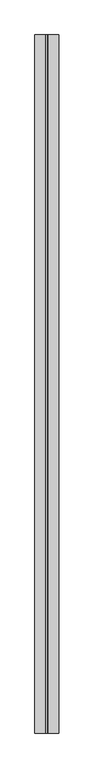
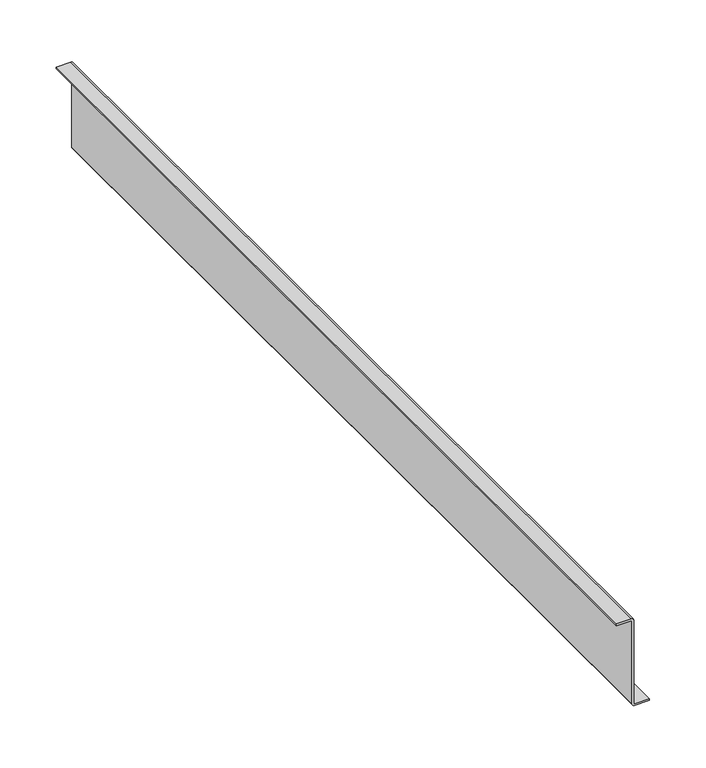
"""IFC4 building model written with IfcOpenShell, lengths in millimetres: proxy geometry, Cable_Tray_Divider_Profile_PSWT_Basorcanal : Basorcanal PSWT 100."""

import ifcopenshell
import ifcopenshell.guid

model = None  # the IFC model being written
_history = None  # IfcOwnerHistory: only IFC2X3 demands one
_inside = {}  # id of a spatial element -> (the spatial element, [elements in it])
_under = {}  # id of a project, library or spatial element -> (it, [spatial elements below it])
_declared = {}  # id of a project -> (the project, [libraries it declares])
_typed = {}  # id of a type object -> (the type object, [elements of that type])
_made_of = {}  # id of a material, layer set ... -> (it, [elements and type objects made of it])


def new_model(schema):
    """Start an empty IFC model of exactly this schema.

    Asked for "IFC4X3", IfcOpenShell would pick the latest addendum, in which some entities
    have other attributes; the version numbers below select the first issue.
    IFC2X3 requires an IfcOwnerHistory on every rooted entity: one is made here for all.
    """
    global model, _history
    if schema == "IFC4X3":
        model = ifcopenshell.file(schema_version=(4, 3, 0, 0))
    else:
        model = ifcopenshell.file(schema=schema)
    _inside.clear()
    _under.clear()
    _declared.clear()
    _typed.clear()
    _made_of.clear()
    _history = None
    if model.schema == "IFC2X3":
        org = make("IfcOrganization", Name="unknown")
        user = make(
            "IfcPersonAndOrganization",
            ThePerson=make("IfcPerson", FamilyName="unknown"),
            TheOrganization=org,
        )
        app = make(
            "IfcApplication",
            ApplicationDeveloper=org,
            Version="unknown",
            ApplicationFullName="unknown",
            ApplicationIdentifier="unknown",
        )
        _history = make(
            "IfcOwnerHistory",
            OwningUser=user,
            OwningApplication=app,
            ChangeAction="ADDED",
            CreationDate=0,
        )
    return model


def make(cls, **values):
    """One entity of the class cls with the attributes given. An attribute that is None is left unset."""
    return model.create_entity(
        cls, **{name: value for name, value in values.items() if value is not None}
    )


def rooted(cls, **values):
    """An entity with a GlobalId (a new one), such as an element, a storey or a relation."""
    return make(cls, GlobalId=ifcopenshell.guid.new(), OwnerHistory=_history, **values)


def si_unit(unit_type, name, prefix=None):
    """IfcSIUnit, for example si_unit("LENGTHUNIT", "METRE", prefix="MILLI")."""
    return make("IfcSIUnit", UnitType=unit_type, Prefix=prefix, Name=name)


def assignment(units):
    """IfcUnitAssignment: the units of a project."""
    return None if units is None else make("IfcUnitAssignment", Units=units)


def point(xyz):
    """IfcCartesianPoint."""
    return None if xyz is None else make("IfcCartesianPoint", Coordinates=xyz)


def direction(xyz):
    """IfcDirection."""
    return None if xyz is None else make("IfcDirection", DirectionRatios=xyz)


def frame(location, z_axis=None, x_axis=None):
    """IfcAxis2Placement3D, a coordinate frame: its origin and axes. An axis left out is left unset."""
    return make(
        "IfcAxis2Placement3D",
        Location=point(location),
        Axis=direction(z_axis),
        RefDirection=direction(x_axis),
    )


def frame_2d(location, x_axis=None):
    """IfcAxis2Placement2D, a coordinate frame in the plane: its origin and x axis."""
    return make(
        "IfcAxis2Placement2D", Location=point(location), RefDirection=direction(x_axis)
    )


def origin():
    """The frame at (0, 0, 0) with its axes left unset."""
    return frame((0.0, 0.0, 0.0))


def place(relative_to, where):
    """IfcLocalPlacement: puts the frame where relative to a parent placement (None: the world)."""
    return make(
        "IfcLocalPlacement", PlacementRelTo=relative_to, RelativePlacement=where
    )


def context(
    kind, dimensions, precision=None, world=None, true_north=None, identifier=None
):
    """IfcGeometricRepresentationContext, for example the 3D "Model" context."""
    return make(
        "IfcGeometricRepresentationContext",
        ContextIdentifier=identifier,
        ContextType=kind,
        CoordinateSpaceDimension=dimensions,
        Precision=precision,
        WorldCoordinateSystem=world,
        TrueNorth=true_north,
    )


def project(units=None, contexts=None):
    """IfcProject with its units and contexts."""
    return rooted(
        "IfcProject",
        Name="project",
        RepresentationContexts=contexts,
        UnitsInContext=assignment(units),
    )


def spatial(cls, under=None, at=None, **own):
    """A site, building, storey or space (cls), placed at a placement, below another one or the project."""
    s = rooted(cls, ObjectPlacement=at, **own)
    if under is not None:
        _under.setdefault(under.id(), (under, []))[1].append(s)
    return s


def polyline(points):
    """IfcPolyline through the points."""
    return make("IfcPolyline", Points=[point(p) for p in points])


def circle_curve(where, radius):
    """IfcCircle in the frame where."""
    return make("IfcCircle", Position=where, Radius=radius)


def trimmed(basis, trim1, trim2, sense, master):
    """IfcTrimmedCurve: the piece of a basis curve between two trims."""
    return make(
        "IfcTrimmedCurve",
        BasisCurve=basis,
        Trim1=trim1,
        Trim2=trim2,
        SenseAgreement=sense,
        MasterRepresentation=master,
    )


def segment(curve, same_sense, transition):
    """IfcCompositeCurveSegment."""
    return make(
        "IfcCompositeCurveSegment",
        Transition=transition,
        SameSense=same_sense,
        ParentCurve=curve,
    )


def composite_curve(segments, self_intersect=None):
    """IfcCompositeCurve: segments joined end to end."""
    return make("IfcCompositeCurve", Segments=segments, SelfIntersect=self_intersect)


def outline(outer, holes=None, kind="AREA"):
    """IfcArbitraryClosedProfileDef: a profile drawn as a closed curve; with holes, ...WithVoids."""
    if holes is None:
        return make("IfcArbitraryClosedProfileDef", ProfileType=kind, OuterCurve=outer)
    return make(
        "IfcArbitraryProfileDefWithVoids",
        ProfileType=kind,
        OuterCurve=outer,
        InnerCurves=holes,
    )


def extrude(swept, where, along, depth):
    """IfcExtrudedAreaSolid: the profile swept, set in the frame where, extruded along a direction by depth."""
    return make(
        "IfcExtrudedAreaSolid",
        SweptArea=swept,
        Position=where,
        ExtrudedDirection=direction(along),
        Depth=depth,
    )


def shape(context_of_items, identifier, shape_type, items):
    """IfcShapeRepresentation: the items that make up one representation, for example the "Body"."""
    return make(
        "IfcShapeRepresentation",
        ContextOfItems=context_of_items,
        RepresentationIdentifier=identifier,
        RepresentationType=shape_type,
        Items=items,
    )


def source(mapping_origin, context_of_items, identifier, shape_type, items):
    """IfcRepresentationMap: a shape defined once, which mapped items show again and again."""
    return make(
        "IfcRepresentationMap",
        MappingOrigin=mapping_origin,
        MappedRepresentation=shape(context_of_items, identifier, shape_type, items),
    )


def transform(
    local_origin,
    x_axis=None,
    y_axis=None,
    z_axis=None,
    scale=None,
    scale2=None,
    scale3=None,
    uniform=True,
):
    """IfcCartesianTransformationOperator3D, or its non-uniform kind. x_axis, y_axis, z_axis: its Axis1, 2, 3."""
    if uniform:
        return make(
            "IfcCartesianTransformationOperator3D",
            Axis1=direction(x_axis),
            Axis2=direction(y_axis),
            LocalOrigin=point(local_origin),
            Scale=scale,
            Axis3=direction(z_axis),
        )
    return make(
        "IfcCartesianTransformationOperator3DnonUniform",
        Axis1=direction(x_axis),
        Axis2=direction(y_axis),
        LocalOrigin=point(local_origin),
        Scale=scale,
        Axis3=direction(z_axis),
        Scale2=scale2,
        Scale3=scale3,
    )


def mapped(mapping_source, mapping_target):
    """IfcMappedItem: shows the shape of a source again, moved by a transform."""
    return make(
        "IfcMappedItem", MappingSource=mapping_source, MappingTarget=mapping_target
    )


def made_of(thing, what):
    """Note that an element or type object is made of a material, layer set ...; save() writes the relation."""
    if what is not None:
        _made_of.setdefault(what.id(), (what, []))[1].append(thing)
    return thing


def element(
    cls,
    number,
    at=None,
    inside=None,
    cuts=None,
    type_object=None,
    material=None,
    context=None,
    identifier="Body",
    shape_type=None,
    held_by="IfcProductDefinitionShape",
    body=None,
    shapes=None,
    **own,
):
    """One element of the class cls, such as IfcWall. Its Tag is "e" and its number.

    at: its placement. inside: the storey or other place that contains it. cuts: it is an
    opening in that element (IfcRelVoidsElement). A single representation is given by context,
    identifier, shape_type and body (its items); several are given by shapes. held_by: the class
    of the entity that holds the representations. save() writes the other relations.
    """
    e = rooted(cls, Tag="e%d" % number, ObjectPlacement=at, **own)
    if body is not None:
        shapes = [shape(context, identifier, shape_type, body)]
    if shapes is not None:
        e.Representation = make(held_by, Representations=shapes)
    if inside is not None:
        _inside.setdefault(inside.id(), (inside, []))[1].append(e)
    if cuts is not None:
        rooted(
            "IfcRelVoidsElement", RelatingBuildingElement=cuts, RelatedOpeningElement=e
        )
    if type_object is not None:
        _typed.setdefault(type_object.id(), (type_object, []))[1].append(e)
    return made_of(e, material)


def aggregate(whole, parts):
    """IfcRelAggregates: a whole, such as a stair, and the parts it consists of."""
    return rooted("IfcRelAggregates", RelatingObject=whole, RelatedObjects=parts)


def save(model, path):
    """Write the relations noted so far, then the file.

    IfcRelAggregates (storeys below a building ...), IfcRelContainedInSpatialStructure (elements
    in a storey), IfcRelDefinesByType, IfcRelAssociatesMaterial and IfcRelDeclares: one each for
    every whole, place, type object, material and project.
    """
    for whole, parts in _under.values():
        aggregate(whole, parts)
    for where, things in _inside.values():
        rooted(
            "IfcRelContainedInSpatialStructure",
            RelatedElements=things,
            RelatingStructure=where,
        )
    for kind, things in _typed.values():
        rooted("IfcRelDefinesByType", RelatedObjects=things, RelatingType=kind)
    for what, things in _made_of.values():
        rooted("IfcRelAssociatesMaterial", RelatedObjects=things, RelatingMaterial=what)
    for by, libraries in _declared.values():
        rooted("IfcRelDeclares", RelatingContext=by, RelatedDefinitions=libraries)
    model.write(path)


def generic_models_77ba660b(model_context):
    return source(origin(), model_context, "Body", "SweptSolid", [
        extrude(outline(composite_curve([segment(polyline([(2.5, 2.8), (2.5, 18.0), (4.5, 18.0), (4.5, 2.8)]), True, "CONTINUOUS"), segment(trimmed(circle_curve(frame_2d((5.3, 2.8)), 0.8), [point((4.5, 2.8))], [point((5.3, 2.0))], True, "CARTESIAN"), True, "CONTINUOUS"), segment(polyline([(5.3, 2.0), (95.2, 2.0)]), True, "CONTINUOUS"), segment(trimmed(circle_curve(frame_2d((95.2, -0.8)), 2.8), [point((95.2, 2.0))], [point((98.0, -0.8))], False, "CARTESIAN"), True, "CONTINUOUS"), segment(polyline([(98.0, -0.8), (98.0, -16.0), (96.0, -16.0), (96.0, -0.8)]), True, "CONTINUOUS"), segment(trimmed(circle_curve(frame_2d((95.2, -0.8)), 0.8), [point((96.0, -0.8))], [point((95.2, 0.0))], True, "CARTESIAN"), True, "CONTINUOUS"), segment(polyline([(95.2, 0.0), (5.3, 0.0)]), True, "CONTINUOUS"), segment(trimmed(circle_curve(frame_2d((5.3, 2.8)), 2.8), [point((5.3, 0.0))], [point((2.5, 2.8))], False, "CARTESIAN"), True, "CONTINUOUS")], self_intersect=False)), frame((0.0, 0.0, 0.0), z_axis=(0.0, 1.0, 0.0), x_axis=(0.0, 0.0, 1.0)), (0.0, 0.0, 1.0), 1000.0),
    ])


if __name__ == "__main__":
    model = new_model("IFC4")
    model_context = context("Model", 3, world=origin())
    ifc_project = project(units=[si_unit("LENGTHUNIT", "METRE", prefix="MILLI")], contexts=[model_context])
    site = spatial("IfcSite", under=ifc_project)
    building = spatial("IfcBuilding", under=site)
    placement = place(None, origin())
    generic_models_shape = generic_models_77ba660b(model_context)
    element("IfcBuildingElementProxy", 1, Name="Cable_Tray_Divider_Profile_PSWT_Basorcanal : Basorcanal PSWT 100", ObjectType="Cable_Tray_Divider_Profile_PSWT_Basorcanal : Basorcanal PSWT 100", at=placement, inside=building, context=model_context, shape_type="MappedRepresentation", body=[
        mapped(generic_models_shape, transform((0.0, 0.0, 0.0), x_axis=(1.0, 0.0, 0.0), y_axis=(0.0, 1.0, 0.0), z_axis=(0.0, 0.0, 1.0))),
    ])
    save(model, "model.ifc")
